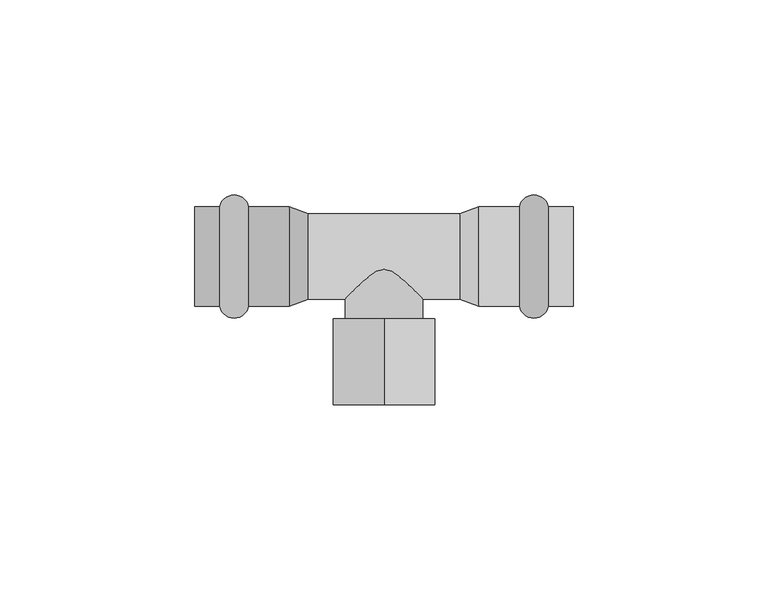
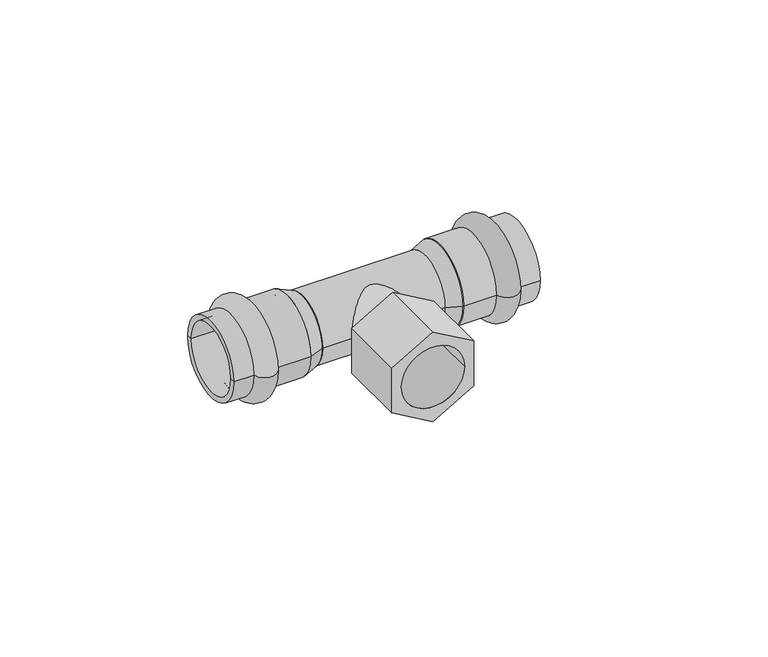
"""IFC4 building model written with IfcOpenShell, lengths in millimetres: pipe fitting geometry, VALTEC_VTi.932.I_Тройник с переходом на внутреннюю резьбу нержавеющая сталь : VTi.932.I."""

from ifc_helpers import new_model, si_unit, point, frame, origin, origin_2d, place, context, project, spatial, polyline, circle_curve, ellipse_curve, trimmed, segment, composite_curve, outline, extrude, source, transform, mapped, element, save
from ifc_brep_helpers import plane_surface, cylinder_surface, revolved_surface, advanced_brep


def pipe_fitting_1115e626(model_context):
    return source(origin(), model_context, "Body", "SolidModel", [
        advanced_brep(
        [(42.1242346, 12.8, 0.0), (42.1242346, -12.8, 0.0), (34.7757654, -12.8, 0.0), (34.7757654, 12.8, 0.0), (48.5, 12.8, 0.0), (48.5, -12.8, 0.0), (48.5, 11.0, 0.0), (48.5, -11.0, 0.0), (24.25, 11.0, 0.0), (24.25, -11.0, 0.0), (24.25, 12.8, 0.0), (24.25, -12.8, 0.0)],
        [
            (0, 1, circle_curve(frame((42.1242346, 0.0, 0.0), z_axis=(-1.0, 0.0, 0.0), x_axis=(0.0, -1.0, 0.0)), 12.8)),
            (1, 2, circle_curve(frame((38.45, -12.05, 0.0), z_axis=(0.0, 0.0, -1.0), x_axis=(-1.0, 0.0, 0.0)), 3.75)),
            (2, 3, circle_curve(frame((34.7757654, 0.0, 0.0), z_axis=(1.0, 0.0, 0.0), x_axis=(0.0, -1.0, 0.0)), 12.8)),
            (3, 0, circle_curve(frame((38.45, 12.05, 0.0), z_axis=(0.0, 0.0, -1.0), x_axis=(-1.0, 0.0, 0.0)), 3.75)),
            (1, 0, circle_curve(frame((42.1242346, 0.0, 0.0), z_axis=(-1.0, 0.0, 0.0), x_axis=(0.0, -1.0, 0.0)), 12.8)),
            (3, 2, circle_curve(frame((34.7757654, 0.0, 0.0), z_axis=(1.0, 0.0, 0.0), x_axis=(0.0, -1.0, 0.0)), 12.8)),
            (4, 5, circle_curve(frame((48.5, 0.0, 0.0), z_axis=(-1.0, 0.0, 0.0), x_axis=(0.0, -1.0, 0.0)), 12.8)),
            (5, 1),
            (0, 4),
            (5, 4, circle_curve(frame((48.5, 0.0, 0.0), z_axis=(-1.0, 0.0, 0.0), x_axis=(0.0, -1.0, 0.0)), 12.8)),
            (6, 7, circle_curve(frame((48.5, 0.0, 0.0), z_axis=(-1.0, 0.0, 0.0), x_axis=(0.0, -1.0, 0.0)), 11.0)),
            (7, 5),
            (4, 6),
            (7, 6, circle_curve(frame((48.5, 0.0, 0.0), z_axis=(-1.0, 0.0, 0.0), x_axis=(0.0, -1.0, 0.0)), 11.0)),
            (8, 9, circle_curve(frame((24.25, 0.0, 0.0), z_axis=(-1.0, 0.0, 0.0), x_axis=(0.0, -1.0, 0.0)), 11.0)),
            (9, 7),
            (6, 8),
            (9, 8, circle_curve(frame((24.25, 0.0, 0.0), z_axis=(-1.0, 0.0, 0.0), x_axis=(0.0, -1.0, 0.0)), 11.0)),
            (10, 11, circle_curve(frame((24.25, 0.0, 0.0), z_axis=(-1.0, 0.0, 0.0), x_axis=(0.0, -1.0, 0.0)), 12.8)),
            (11, 9),
            (8, 10),
            (11, 10, circle_curve(frame((24.25, 0.0, 0.0), z_axis=(-1.0, 0.0, 0.0), x_axis=(0.0, -1.0, 0.0)), 12.8)),
            (2, 11),
            (10, 3),
        ],
        [
            revolved_surface(trimmed(ellipse_curve(frame((38.45, -12.05, 0.0), z_axis=(0.0, 0.0, 1.0), x_axis=(-1.0, 0.0, 0.0)), 3.75, 3.75), [point((34.7757654, -12.8, 0.0))], [point((42.1242346, -12.8, 0.0))], True, "CARTESIAN"), (52.0364426, 0.0, 0.0), (1.0, 0.0, 0.0)),
            cylinder_surface(frame((52.0364426, 0.0, 0.0), z_axis=(1.0, 0.0, 0.0), x_axis=(0.0, -1.0, 0.0)), 12.8),
            plane_surface(frame((48.5, 0.0, 0.0), z_axis=(1.0, 0.0, 0.0), x_axis=(0.0, -1.0, 0.0))),
            revolved_surface(polyline([(48.5, -11.0, 0.0), (24.25, -11.0, 0.0)]), (52.0364426, 0.0, 0.0), (1.0, 0.0, 0.0)),
            plane_surface(frame((24.25, 0.0, 0.0), z_axis=(-1.0, 0.0, 0.0), x_axis=(0.0, -1.0, 0.0))),
        ],
        [
            (0, [[1, 2, 3, 4]]),
            (0, [[5, -4, 6, -2]]),
            (1, [[7, 8, -1, 9]]),
            (1, [[10, -9, -5, -8]]),
            (2, [[11, 12, -7, 13]]),
            (2, [[14, -13, -10, -12]]),
            (3, [[15, 16, -11, 17]]),
            (3, [[18, -17, -14, -16]]),
            (4, [[19, 20, -15, 21]]),
            (4, [[22, -21, -18, -20]]),
            (1, [[-3, 23, -19, 24]]),
            (1, [[-6, -24, -22, -23]]),
        ],
    ),
        advanced_brep(
        [(-42.1242346, -12.8, 0.0), (-42.1242346, 12.8, 0.0), (-34.7757654, 12.8, 0.0), (-34.7757654, -12.8, 0.0), (-48.5, -12.8, 0.0), (-48.5, 12.8, 0.0), (-48.5, -11.0, 0.0), (-48.5, 11.0, 0.0), (-24.25, -11.0, 0.0), (-24.25, 11.0, 0.0), (-24.25, -12.8, 0.0), (-24.25, 12.8, 0.0)],
        [
            (0, 1, circle_curve(frame((-42.1242346, 0.0, 0.0), z_axis=(1.0, 0.0, 0.0), x_axis=(0.0, 1.0, 0.0)), 12.8)),
            (1, 2, circle_curve(frame((-38.45, 12.05, 0.0), z_axis=(0.0, 0.0, -1.0), x_axis=(1.0, 0.0, 0.0)), 3.75)),
            (2, 3, circle_curve(frame((-34.7757654, 0.0, 0.0), z_axis=(-1.0, 0.0, 0.0), x_axis=(0.0, 1.0, 0.0)), 12.8)),
            (3, 0, circle_curve(frame((-38.45, -12.05, 0.0), z_axis=(0.0, 0.0, -1.0), x_axis=(1.0, 0.0, 0.0)), 3.75)),
            (1, 0, circle_curve(frame((-42.1242346, 0.0, 0.0), z_axis=(1.0, 0.0, 0.0), x_axis=(0.0, 1.0, 0.0)), 12.8)),
            (3, 2, circle_curve(frame((-34.7757654, 0.0, 0.0), z_axis=(-1.0, 0.0, 0.0), x_axis=(0.0, 1.0, 0.0)), 12.8)),
            (4, 5, circle_curve(frame((-48.5, 0.0, 0.0), z_axis=(1.0, 0.0, 0.0), x_axis=(0.0, 1.0, 0.0)), 12.8)),
            (5, 1),
            (0, 4),
            (5, 4, circle_curve(frame((-48.5, 0.0, 0.0), z_axis=(1.0, 0.0, 0.0), x_axis=(0.0, 1.0, 0.0)), 12.8)),
            (6, 7, circle_curve(frame((-48.5, 0.0, 0.0), z_axis=(1.0, 0.0, 0.0), x_axis=(0.0, 1.0, 0.0)), 11.0)),
            (7, 5),
            (4, 6),
            (7, 6, circle_curve(frame((-48.5, 0.0, 0.0), z_axis=(1.0, 0.0, 0.0), x_axis=(0.0, 1.0, 0.0)), 11.0)),
            (8, 9, circle_curve(frame((-24.25, 0.0, 0.0), z_axis=(1.0, 0.0, 0.0), x_axis=(0.0, 1.0, 0.0)), 11.0)),
            (9, 7),
            (6, 8),
            (9, 8, circle_curve(frame((-24.25, 0.0, 0.0), z_axis=(1.0, 0.0, 0.0), x_axis=(0.0, 1.0, 0.0)), 11.0)),
            (10, 11, circle_curve(frame((-24.25, 0.0, 0.0), z_axis=(1.0, 0.0, 0.0), x_axis=(0.0, 1.0, 0.0)), 12.8)),
            (11, 9),
            (8, 10),
            (11, 10, circle_curve(frame((-24.25, 0.0, 0.0), z_axis=(1.0, 0.0, 0.0), x_axis=(0.0, 1.0, 0.0)), 12.8)),
            (2, 11),
            (10, 3),
        ],
        [
            revolved_surface(trimmed(ellipse_curve(frame((-38.45, 12.05, 0.0), z_axis=(0.0, 0.0, 1.0), x_axis=(1.0, 0.0, 0.0)), 3.75, 3.75), [point((-34.7757654, 12.8, 0.0))], [point((-42.1242346, 12.8, 0.0))], True, "CARTESIAN"), (-52.0364426, 0.0, 0.0), (-1.0, 0.0, 0.0)),
            cylinder_surface(frame((-52.0364426, 0.0, 0.0), z_axis=(-1.0, 0.0, 0.0), x_axis=(0.0, 1.0, 0.0)), 12.8),
            plane_surface(frame((-48.5, 0.0, 0.0), z_axis=(-1.0, 0.0, 0.0), x_axis=(0.0, 1.0, 0.0))),
            revolved_surface(polyline([(-48.5, 11.0, 0.0), (-24.25, 11.0, 0.0)]), (-52.0364426, 0.0, 0.0), (-1.0, 0.0, 0.0)),
            plane_surface(frame((-24.25, 0.0, 0.0), z_axis=(1.0, 0.0, 0.0), x_axis=(0.0, 1.0, 0.0))),
        ],
        [
            (0, [[1, 2, 3, 4]]),
            (0, [[5, -4, 6, -2]]),
            (1, [[7, 8, -1, 9]]),
            (1, [[10, -9, -5, -8]]),
            (2, [[11, 12, -7, 13]]),
            (2, [[14, -13, -10, -12]]),
            (3, [[15, 16, -11, 17]]),
            (3, [[18, -17, -14, -16]]),
            (4, [[19, 20, -15, 21]]),
            (4, [[22, -21, -18, -20]]),
            (1, [[-3, 23, -19, 24]]),
            (1, [[-6, -24, -22, -23]]),
        ],
    ),
        extrude(outline(polyline([(15.011107, 0.0), (7.5055535, -13.0), (-7.5055535, -13.0), (-15.011107, 0.0), (-7.5055535, 13.0), (7.5055535, 13.0), (15.011107, 0.0)]), holes=[composite_curve([segment(trimmed(circle_curve(origin_2d(), 10.0), [point((0.0, -10.0))], [point((0.0, 10.0))], True, "CARTESIAN"), True, "CONTINUOUS"), segment(trimmed(circle_curve(origin_2d(), 10.0), [point((0.0, 10.0))], [point((0.0, -10.0))], True, "CARTESIAN"), True, "CONTINUOUS")], self_intersect=False)]), frame((0.0, -38.0, 0.0), z_axis=(0.0, 1.0, 0.0), x_axis=(0.0, 0.0, 1.0)), (0.0, 0.0, 1.0), 22.0),
        extrude(outline(composite_curve([segment(trimmed(circle_curve(origin_2d(), 10.0), [point((0.0, -10.0))], [point((0.0, 10.0))], False, "CARTESIAN"), True, "CONTINUOUS"), segment(trimmed(circle_curve(origin_2d(), 10.0), [point((0.0, 10.0))], [point((0.0, -10.0))], False, "CARTESIAN"), True, "CONTINUOUS")], self_intersect=False)), frame((0.0, -16.0, 0.0), z_axis=(0.0, 1.0, 0.0), x_axis=(0.0, 0.0, 1.0)), (0.0, 0.0, 1.0), 16.0),
        extrude(outline(composite_curve([segment(trimmed(circle_curve(origin_2d(), 11.0), [point((-11.0, 0.0))], [point((11.0, 0.0))], False, "CARTESIAN"), True, "CONTINUOUS"), segment(trimmed(circle_curve(origin_2d(), 11.0), [point((11.0, 0.0))], [point((-11.0, 0.0))], False, "CARTESIAN"), True, "CONTINUOUS")], self_intersect=False)), frame((-19.4, 0.0, 0.0), z_axis=(1.0, 0.0, 0.0), x_axis=(0.0, 1.0, 0.0)), (0.0, 0.0, 1.0), 38.8),
        advanced_brep(
        [(24.25, -12.8, 0.0), (24.25, 12.8, 0.0), (19.4, -11.0, 0.0), (19.4, 11.0, 0.0)],
        [
            (0, 1, circle_curve(frame((24.25, 0.0, 0.0), z_axis=(1.0, 0.0, 0.0), x_axis=(0.0, -1.0, 0.0)), 12.8)),
            (1, 0, circle_curve(frame((24.25, 0.0, 0.0), z_axis=(1.0, 0.0, 0.0), x_axis=(0.0, 1.0, 0.0)), 12.8)),
            (2, 3, circle_curve(frame((19.4, 0.0, 0.0), z_axis=(-1.0, 0.0, 0.0), x_axis=(0.0, 1.0, 0.0)), 11.0)),
            (3, 2, circle_curve(frame((19.4, 0.0, 0.0), z_axis=(-1.0, 0.0, 0.0), x_axis=(0.0, -1.0, 0.0)), 11.0)),
            (3, 1),
            (0, 2),
        ],
        [
            plane_surface(frame((24.25, 0.0, 0.0), z_axis=(1.0, 0.0, 0.0), x_axis=(0.0, 0.0, 1.0))),
            plane_surface(frame((19.4, 0.0, 0.0), z_axis=(-1.0, 0.0, 0.0), x_axis=(0.0, 0.0, 1.0))),
            revolved_surface(polyline([(19.4, 11.000000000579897, 0.0), (24.25, 12.8, 0.0)]), (-10.2388889, 0.0, 0.0), (1.0, 0.0, 0.0)),
            revolved_surface(polyline([(19.4, -11.000000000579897, 0.0), (24.25, -12.8, 0.0)]), (-10.2388889, 0.0, 0.0), (1.0, 0.0, 0.0)),
        ],
        [
            (0, [[1, 2]]),
            (1, [[3, 4]]),
            (2, [[-4, 5, -1, 6]]),
            (3, [[-3, -6, -2, -5]]),
        ],
    ),
        advanced_brep(
        [(-24.25, -12.8, 0.0), (-24.25, 12.8, 0.0), (-19.4, -11.0, 0.0), (-19.4, 11.0, 0.0)],
        [
            (0, 1, circle_curve(frame((-24.25, 0.0, 0.0), z_axis=(-1.0, 0.0, 0.0), x_axis=(0.0, -1.0, 0.0)), 12.8)),
            (1, 0, circle_curve(frame((-24.25, 0.0, 0.0), z_axis=(-1.0, 0.0, 0.0), x_axis=(0.0, 1.0, 0.0)), 12.8)),
            (2, 3, circle_curve(frame((-19.4, 0.0, 0.0), z_axis=(1.0, 0.0, 0.0), x_axis=(0.0, 1.0, 0.0)), 11.0)),
            (3, 2, circle_curve(frame((-19.4, 0.0, 0.0), z_axis=(1.0, 0.0, 0.0), x_axis=(0.0, -1.0, 0.0)), 11.0)),
            (2, 0),
            (1, 3),
        ],
        [
            plane_surface(frame((-24.25, 0.0, 0.0), z_axis=(-1.0, 0.0, 0.0), x_axis=(0.0, 0.0, -1.0))),
            plane_surface(frame((-19.4, 0.0, 0.0), z_axis=(1.0, 0.0, 0.0), x_axis=(0.0, 0.0, -1.0))),
            revolved_surface(polyline([(-19.4, -11.000000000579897, 0.0), (-24.25, -12.8, 0.0)]), (10.2388889, 0.0, 0.0), (-1.0, 0.0, 0.0)),
            revolved_surface(polyline([(-19.4, 11.000000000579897, 0.0), (-24.25, 12.8, 0.0)]), (10.2388889, 0.0, 0.0), (-1.0, 0.0, 0.0)),
        ],
        [
            (0, [[1, 2]]),
            (1, [[3, 4]]),
            (2, [[-3, 5, -2, 6]]),
            (3, [[-4, -6, -1, -5]]),
        ],
    ),
    ])


if __name__ == "__main__":
    model = new_model("IFC4")
    model_context = context("Model", 3, world=origin())
    ifc_project = project(units=[si_unit("LENGTHUNIT", "METRE", prefix="MILLI")], contexts=[model_context])
    site = spatial("IfcSite", under=ifc_project)
    building = spatial("IfcBuilding", under=site)
    placement = place(None, origin())
    pipe_fitting_shape = pipe_fitting_1115e626(model_context)
    element("IfcPipeFitting", 1, ObjectType="VALTEC_VTi.932.I_Тройник с переходом на внутреннюю резьбу нержавеющая сталь : VTi.932.I", at=placement, inside=building, context=model_context, shape_type="MappedRepresentation", body=[
        mapped(pipe_fitting_shape, transform((0.0, 0.0, 0.0), x_axis=(1.0, 0.0, 0.0), y_axis=(0.0, 1.0, 0.0), z_axis=(0.0, 0.0, 1.0))),
    ])
    save(model, "model.ifc")
